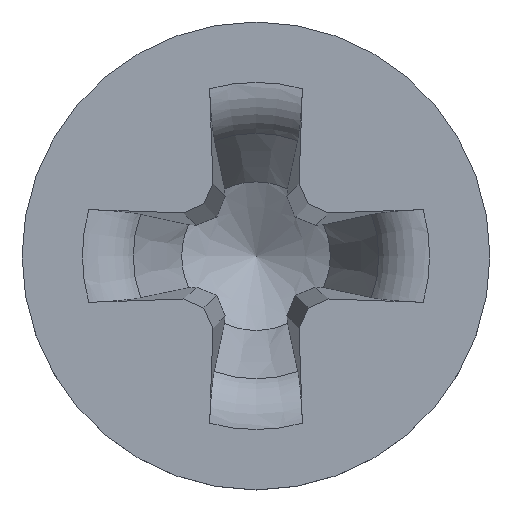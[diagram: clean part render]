
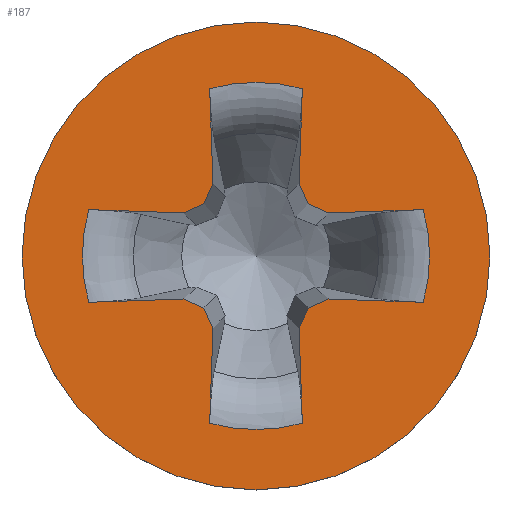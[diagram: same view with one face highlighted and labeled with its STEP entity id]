
A CAD part, top view. The second image highlights one B-rep face of the part: STEP entity #187.
In plain terms, the highlighted planar face has unit normal (0, 0, 1).
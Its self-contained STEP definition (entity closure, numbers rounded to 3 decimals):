
#54=LINE('',#1725,#96);
#55=LINE('',#1730,#97);
#56=LINE('',#1732,#98);
#57=LINE('',#1734,#99);
#58=LINE('',#1736,#100);
#59=LINE('',#1740,#101);
#60=LINE('',#1742,#102);
#61=LINE('',#1744,#103);
#62=LINE('',#1746,#104);
#63=LINE('',#1750,#105);
#64=LINE('',#1752,#106);
#65=LINE('',#1754,#107);
#66=LINE('',#1756,#108);
#67=LINE('',#1760,#109);
#68=LINE('',#1762,#110);
#69=LINE('',#1764,#111);
#96=VECTOR('',#1055,1.);
#97=VECTOR('',#1058,1.);
#98=VECTOR('',#1059,1.);
#99=VECTOR('',#1060,1.);
#100=VECTOR('',#1061,1.);
#101=VECTOR('',#1064,1.);
#102=VECTOR('',#1065,1.);
#103=VECTOR('',#1066,1.);
#104=VECTOR('',#1067,1.);
#105=VECTOR('',#1070,1.);
#106=VECTOR('',#1071,1.);
#107=VECTOR('',#1072,1.);
#108=VECTOR('',#1073,1.);
#109=VECTOR('',#1076,1.);
#110=VECTOR('',#1077,1.);
#111=VECTOR('',#1078,1.);
#143=PLANE('',#986);
#171=FACE_BOUND('',#302,.T.);
#172=FACE_BOUND('',#303,.T.);
#187=ADVANCED_FACE('',(#171,#172),#143,.F.);
#302=EDGE_LOOP('',(#414,#415,#416,#417,#418,#419,#420,#421,#422,#423,#424,
#425,#426,#427,#428,#429,#430,#431,#432,#433));
#303=EDGE_LOOP('',(#434));
#363=CIRCLE('',#981,1.484);
#364=CIRCLE('',#982,1.484);
#365=CIRCLE('',#983,1.484);
#366=CIRCLE('',#984,1.484);
#367=CIRCLE('',#985,2.);
#414=ORIENTED_EDGE('',*,*,#782,.F.);
#415=ORIENTED_EDGE('',*,*,#783,.T.);
#416=ORIENTED_EDGE('',*,*,#784,.F.);
#417=ORIENTED_EDGE('',*,*,#785,.F.);
#418=ORIENTED_EDGE('',*,*,#786,.F.);
#419=ORIENTED_EDGE('',*,*,#787,.F.);
#420=ORIENTED_EDGE('',*,*,#788,.T.);
#421=ORIENTED_EDGE('',*,*,#789,.F.);
#422=ORIENTED_EDGE('',*,*,#790,.F.);
#423=ORIENTED_EDGE('',*,*,#791,.F.);
#424=ORIENTED_EDGE('',*,*,#792,.F.);
#425=ORIENTED_EDGE('',*,*,#793,.T.);
#426=ORIENTED_EDGE('',*,*,#794,.F.);
#427=ORIENTED_EDGE('',*,*,#795,.F.);
#428=ORIENTED_EDGE('',*,*,#796,.F.);
#429=ORIENTED_EDGE('',*,*,#797,.F.);
#430=ORIENTED_EDGE('',*,*,#798,.T.);
#431=ORIENTED_EDGE('',*,*,#799,.F.);
#432=ORIENTED_EDGE('',*,*,#800,.F.);
#433=ORIENTED_EDGE('',*,*,#801,.F.);
#434=ORIENTED_EDGE('',*,*,#802,.F.);
#685=VERTEX_POINT('',#1726);
#686=VERTEX_POINT('',#1727);
#687=VERTEX_POINT('',#1729);
#688=VERTEX_POINT('',#1731);
#689=VERTEX_POINT('',#1733);
#690=VERTEX_POINT('',#1735);
#691=VERTEX_POINT('',#1737);
#692=VERTEX_POINT('',#1739);
#693=VERTEX_POINT('',#1741);
#694=VERTEX_POINT('',#1743);
#695=VERTEX_POINT('',#1745);
#696=VERTEX_POINT('',#1747);
#697=VERTEX_POINT('',#1749);
#698=VERTEX_POINT('',#1751);
#699=VERTEX_POINT('',#1753);
#700=VERTEX_POINT('',#1755);
#701=VERTEX_POINT('',#1757);
#702=VERTEX_POINT('',#1759);
#703=VERTEX_POINT('',#1761);
#704=VERTEX_POINT('',#1763);
#705=VERTEX_POINT('',#1766);
#782=EDGE_CURVE('',#685,#686,#54,.T.);
#783=EDGE_CURVE('',#685,#687,#363,.T.);
#784=EDGE_CURVE('',#688,#687,#55,.T.);
#785=EDGE_CURVE('',#689,#688,#56,.T.);
#786=EDGE_CURVE('',#690,#689,#57,.T.);
#787=EDGE_CURVE('',#691,#690,#58,.T.);
#788=EDGE_CURVE('',#691,#692,#364,.T.);
#789=EDGE_CURVE('',#693,#692,#59,.T.);
#790=EDGE_CURVE('',#694,#693,#60,.T.);
#791=EDGE_CURVE('',#695,#694,#61,.T.);
#792=EDGE_CURVE('',#696,#695,#62,.T.);
#793=EDGE_CURVE('',#696,#697,#365,.T.);
#794=EDGE_CURVE('',#698,#697,#63,.T.);
#795=EDGE_CURVE('',#699,#698,#64,.T.);
#796=EDGE_CURVE('',#700,#699,#65,.T.);
#797=EDGE_CURVE('',#701,#700,#66,.T.);
#798=EDGE_CURVE('',#701,#702,#366,.T.);
#799=EDGE_CURVE('',#703,#702,#67,.T.);
#800=EDGE_CURVE('',#704,#703,#68,.T.);
#801=EDGE_CURVE('',#686,#704,#69,.T.);
#802=EDGE_CURVE('',#705,#705,#367,.T.);
#981=AXIS2_PLACEMENT_3D('',#1728,#1056,#1057);
#982=AXIS2_PLACEMENT_3D('',#1738,#1062,#1063);
#983=AXIS2_PLACEMENT_3D('',#1748,#1068,#1069);
#984=AXIS2_PLACEMENT_3D('',#1758,#1074,#1075);
#985=AXIS2_PLACEMENT_3D('',#1765,#1079,#1080);
#986=AXIS2_PLACEMENT_3D('',#1767,#1081,#1082);
#1055=DIRECTION('',(-0.999,-0.035,0.));
#1056=DIRECTION('',(0.,0.,-1.));
#1057=DIRECTION('',(-1.,0.,0.));
#1058=DIRECTION('',(0.999,-0.035,0.));
#1059=DIRECTION('',(0.914,0.407,0.));
#1060=DIRECTION('',(0.407,0.914,0.));
#1061=DIRECTION('',(-0.035,0.999,0.));
#1062=DIRECTION('',(0.,0.,-1.));
#1063=DIRECTION('',(-1.,0.,0.));
#1064=DIRECTION('',(-0.035,-0.999,0.));
#1065=DIRECTION('',(0.407,-0.914,0.));
#1066=DIRECTION('',(0.914,-0.407,0.));
#1067=DIRECTION('',(0.999,0.035,0.));
#1068=DIRECTION('',(0.,0.,-1.));
#1069=DIRECTION('',(-1.,0.,0.));
#1070=DIRECTION('',(-0.999,0.035,0.));
#1071=DIRECTION('',(-0.914,-0.407,0.));
#1072=DIRECTION('',(-0.407,-0.914,0.));
#1073=DIRECTION('',(0.035,-0.999,0.));
#1074=DIRECTION('',(0.,0.,-1.));
#1075=DIRECTION('',(-1.,0.,0.));
#1076=DIRECTION('',(0.035,0.999,0.));
#1077=DIRECTION('',(-0.407,0.914,0.));
#1078=DIRECTION('',(-0.914,0.407,0.));
#1079=DIRECTION('',(0.,0.,-1.));
#1080=DIRECTION('',(-1.,0.,0.));
#1081=DIRECTION('',(0.,0.,-1.));
#1082=DIRECTION('',(-1.,0.,0.));
#1725=CARTESIAN_POINT('',(-0.012,0.346,1.56));
#1726=CARTESIAN_POINT('',(1.43,0.396,1.56));
#1727=CARTESIAN_POINT('',(0.619,0.368,1.56));
#1728=CARTESIAN_POINT('',(0.,0.,1.56));
#1729=CARTESIAN_POINT('',(1.43,-0.396,1.56));
#1730=CARTESIAN_POINT('',(-0.012,-0.346,1.56));
#1731=CARTESIAN_POINT('',(0.619,-0.368,1.56));
#1732=CARTESIAN_POINT('',(0.239,-0.537,1.56));
#1733=CARTESIAN_POINT('',(0.445,-0.445,1.56));
#1734=CARTESIAN_POINT('',(0.537,-0.239,1.56));
#1735=CARTESIAN_POINT('',(0.368,-0.619,1.56));
#1736=CARTESIAN_POINT('',(0.346,0.012,1.56));
#1737=CARTESIAN_POINT('',(0.396,-1.43,1.56));
#1738=CARTESIAN_POINT('',(0.,0.,1.56));
#1739=CARTESIAN_POINT('',(-0.396,-1.43,1.56));
#1740=CARTESIAN_POINT('',(-0.346,0.012,1.56));
#1741=CARTESIAN_POINT('',(-0.368,-0.619,1.56));
#1742=CARTESIAN_POINT('',(-0.537,-0.239,1.56));
#1743=CARTESIAN_POINT('',(-0.445,-0.445,1.56));
#1744=CARTESIAN_POINT('',(-0.239,-0.537,1.56));
#1745=CARTESIAN_POINT('',(-0.619,-0.368,1.56));
#1746=CARTESIAN_POINT('',(0.012,-0.346,1.56));
#1747=CARTESIAN_POINT('',(-1.43,-0.396,1.56));
#1748=CARTESIAN_POINT('',(0.,0.,1.56));
#1749=CARTESIAN_POINT('',(-1.43,0.396,1.56));
#1750=CARTESIAN_POINT('',(0.012,0.346,1.56));
#1751=CARTESIAN_POINT('',(-0.619,0.368,1.56));
#1752=CARTESIAN_POINT('',(-0.239,0.537,1.56));
#1753=CARTESIAN_POINT('',(-0.445,0.445,1.56));
#1754=CARTESIAN_POINT('',(-0.537,0.239,1.56));
#1755=CARTESIAN_POINT('',(-0.368,0.619,1.56));
#1756=CARTESIAN_POINT('',(-0.346,-0.012,1.56));
#1757=CARTESIAN_POINT('',(-0.396,1.43,1.56));
#1758=CARTESIAN_POINT('',(0.,0.,1.56));
#1759=CARTESIAN_POINT('',(0.396,1.43,1.56));
#1760=CARTESIAN_POINT('',(0.346,-0.012,1.56));
#1761=CARTESIAN_POINT('',(0.368,0.619,1.56));
#1762=CARTESIAN_POINT('',(0.537,0.239,1.56));
#1763=CARTESIAN_POINT('',(0.445,0.445,1.56));
#1764=CARTESIAN_POINT('',(0.239,0.537,1.56));
#1765=CARTESIAN_POINT('',(0.,0.,1.56));
#1766=CARTESIAN_POINT('',(-2.,0.,1.56));
#1767=CARTESIAN_POINT('',(0.,0.,1.56));
